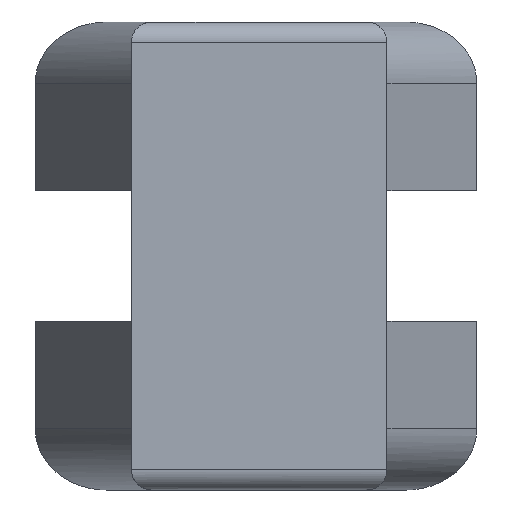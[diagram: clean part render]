
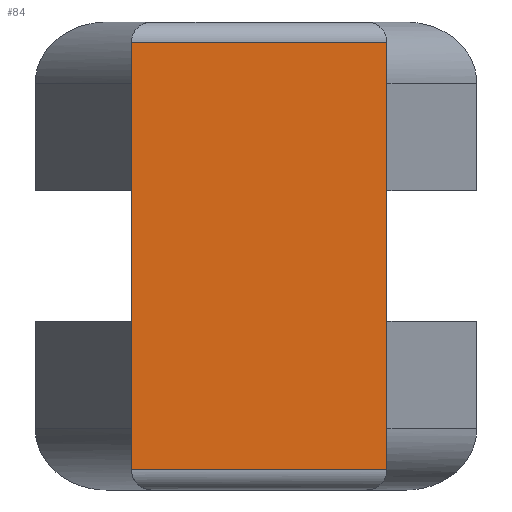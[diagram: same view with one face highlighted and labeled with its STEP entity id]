
A CAD part, left-side view. The second image highlights one B-rep face of the part: STEP entity #84.
In plain terms, the highlighted planar face has unit normal (-1, 0, 0).
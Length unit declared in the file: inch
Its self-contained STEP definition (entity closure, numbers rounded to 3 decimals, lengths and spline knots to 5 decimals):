
#36 = EDGE_CURVE ( 'NONE', #60, #561, #1182, .T. ) ;
#60 = VERTEX_POINT ( 'NONE', #593 ) ;
#69 = LINE ( 'NONE', #1312, #324 ) ;
#84 = ADVANCED_FACE ( 'NONE', ( #825 ), #175, .F. ) ;
#154 = LINE ( 'NONE', #1169, #759 ) ;
#157 = EDGE_CURVE ( 'NONE', #273, #60, #69, .T. ) ;
#175 = PLANE ( 'NONE',  #988 ) ;
#221 = CARTESIAN_POINT ( 'NONE',  ( -0.25151, -0.83948, 0.21894 ) ) ;
#239 = ORIENTED_EDGE ( 'NONE', *, *, #157, .T. ) ;
#263 = EDGE_CURVE ( 'NONE', #1061, #273, #1141, .T. ) ;
#273 = VERTEX_POINT ( 'NONE', #221 ) ;
#324 = VECTOR ( 'NONE', #393, 39.37008 ) ;
#338 = EDGE_CURVE ( 'NONE', #561, #1061, #154, .T. ) ;
#355 = DIRECTION ( 'NONE',  ( 0., 0., -1. ) ) ;
#386 = VECTOR ( 'NONE', #355, 39.37008 ) ;
#393 = DIRECTION ( 'NONE',  ( 0., 1., 0. ) ) ;
#396 = ORIENTED_EDGE ( 'NONE', *, *, #263, .T. ) ;
#491 = CARTESIAN_POINT ( 'NONE',  ( -0.25151, -0.71448, 0.01 ) ) ;
#520 = DIRECTION ( 'NONE',  ( 0., 0., 1. ) ) ;
#561 = VERTEX_POINT ( 'NONE', #491 ) ;
#593 = CARTESIAN_POINT ( 'NONE',  ( -0.25151, -0.71448, 0.21894 ) ) ;
#609 = ORIENTED_EDGE ( 'NONE', *, *, #36, .T. ) ;
#759 = VECTOR ( 'NONE', #1086, 39.37008 ) ;
#785 = EDGE_LOOP ( 'NONE', ( #396, #239, #609, #854 ) ) ;
#825 = FACE_OUTER_BOUND ( 'NONE', #785, .T. ) ;
#854 = ORIENTED_EDGE ( 'NONE', *, *, #338, .T. ) ;
#863 = CARTESIAN_POINT ( 'NONE',  ( -0.25151, -0.71448, 0. ) ) ;
#988 = AXIS2_PLACEMENT_3D ( 'NONE', #1009, #1017, #1213 ) ;
#1009 = CARTESIAN_POINT ( 'NONE',  ( -0.25151, 0., 0. ) ) ;
#1017 = DIRECTION ( 'NONE',  ( 1., 0., 0. ) ) ;
#1038 = CARTESIAN_POINT ( 'NONE',  ( -0.25151, -0.83948, 0. ) ) ;
#1061 = VERTEX_POINT ( 'NONE', #1259 ) ;
#1086 = DIRECTION ( 'NONE',  ( 0., -1., 0. ) ) ;
#1141 = LINE ( 'NONE', #1038, #1227 ) ;
#1169 = CARTESIAN_POINT ( 'NONE',  ( -0.25151, -0.83948, 0.01 ) ) ;
#1182 = LINE ( 'NONE', #863, #386 ) ;
#1213 = DIRECTION ( 'NONE',  ( 0., 0., -1. ) ) ;
#1227 = VECTOR ( 'NONE', #520, 39.37008 ) ;
#1259 = CARTESIAN_POINT ( 'NONE',  ( -0.25151, -0.83948, 0.01 ) ) ;
#1312 = CARTESIAN_POINT ( 'NONE',  ( -0.25151, 0., 0.21894 ) ) ;
